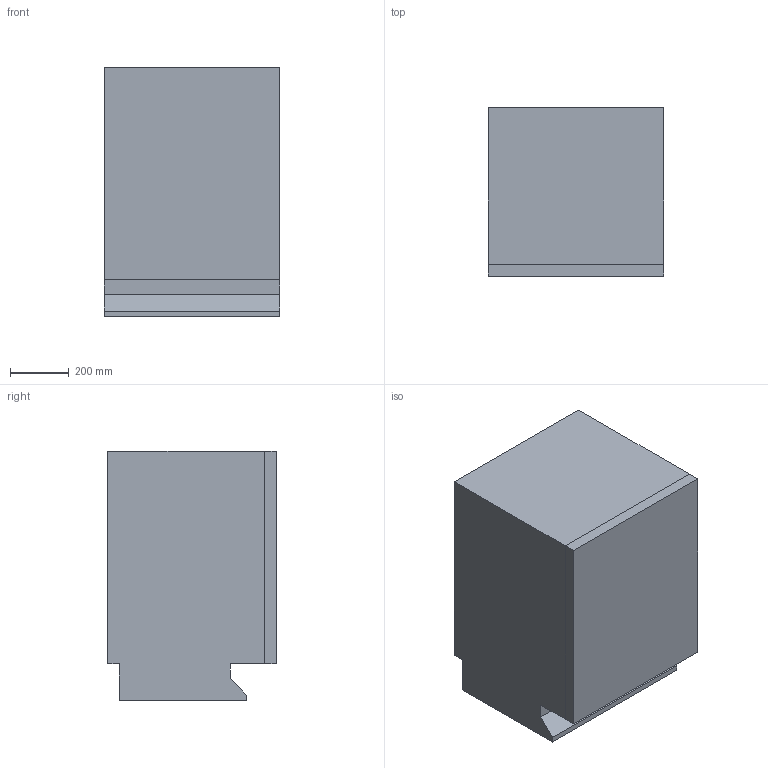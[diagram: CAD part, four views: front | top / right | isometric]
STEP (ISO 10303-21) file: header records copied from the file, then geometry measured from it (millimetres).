
FILE_DESCRIPTION(/* description */ (''),/* implementation_level */ '2;1');
FILE_NAME(/* name */ 'AdoraDish_V2000-V4000-V6000_VG',/* time_stamp */ '2025-10-20T17:04:19+02:00',/* author */ (''),/* organization */ (''),/* preprocessor_version */ 'ST-DEVELOPER v16.5',/* originating_system */ 'Rhino 7.38',/* authorisation */ '');
FILE_SCHEMA (('CONFIG_CONTROL_DESIGN'));
Length unit declared in the file: millimetre
Products named in the file (1): Document
Bounding box: 596 x 572 x 845 mm (x, y, z)
Volume: 275001297.4 mm3; surface area: 3517807.1 mm2
Topology: 2 solids, 2 shells, 18 faces, 42 edges, 28 vertices
Faces by surface type: plane 18
Entity records: 530 total; most frequent: CARTESIAN_POINT 132, ORIENTED_EDGE 84, EDGE_CURVE 42, B_SPLINE_CURVE_WITH_KNOTS 42, VERTEX_POINT 28, DIRECTION 22, AXIS2_PLACEMENT_3D 20, ADVANCED_FACE 18
